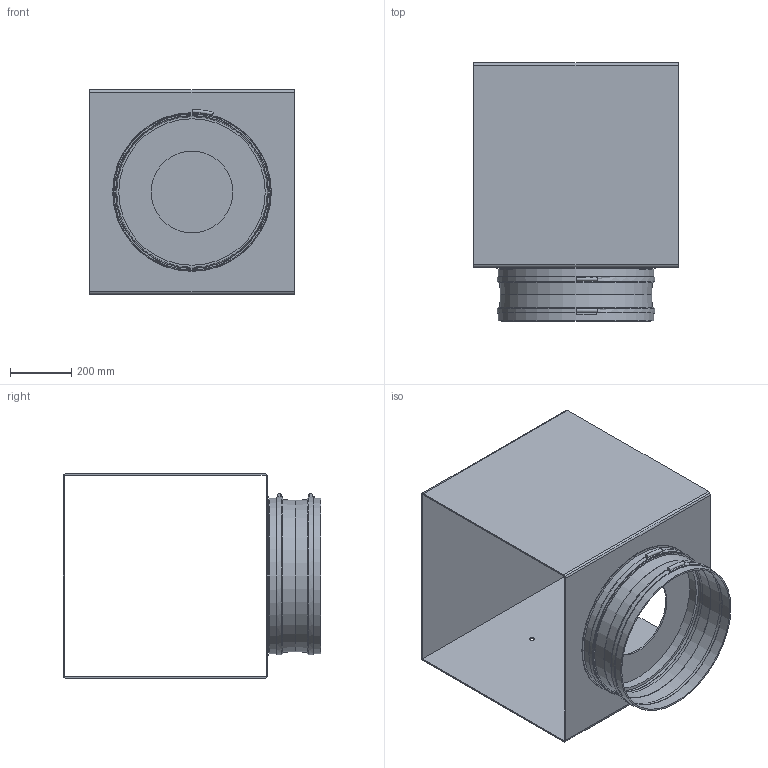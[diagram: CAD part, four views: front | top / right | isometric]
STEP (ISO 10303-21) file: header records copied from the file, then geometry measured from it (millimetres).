
FILE_DESCRIPTION(/* description */ (''),/* implementation_level */ '2;1');
FILE_NAME(/* name */ 'Z:\Output\GBD 500_4_4 T 120_DoubleRadial-05777-001.stp',/* time_stamp */ '2017-05-09T00:04:23+02:00',/* author */ ('jayeshpanchal'),/* organization */ (''),/* preprocessor_version */ 'ST-DEVELOPER v16.5',/* originating_system */ 'Autodesk Inventor 2017',/* authorisation */ '');
FILE_SCHEMA (('AUTOMOTIVE_DESIGN { 1 0 10303 214 3 1 1 }'));
Length unit declared in the file: millimetre
Products named in the file (1): GB-3
Bounding box: 670 x 845 x 670 mm (x, y, z)
Volume: 10067332.6 mm3; surface area: 4229161.6 mm2
Topology: 4 solids, 4 shells, 63 faces, 129 edges, 83 vertices
Faces by surface type: plane 31, cylinder 26, cone 4, torus 2
Full cylindrical faces by diameter (mm): 15 x2, 268 x1, 480 x1, 490 x1, 500 x1, 501 x4, 510 x1, 511 x4, 517 x2, 520 x1
Entity records: 1587 total; most frequent: DIRECTION 292, CARTESIAN_POINT 248, ORIENTED_EDGE 212, AXIS2_PLACEMENT_3D 124, EDGE_LOOP 108, EDGE_CURVE 104, VERTEX_POINT 80, FACE_OUTER_BOUND 63
